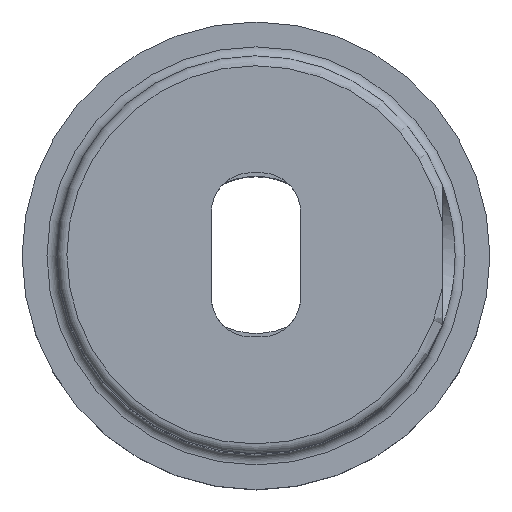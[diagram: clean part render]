
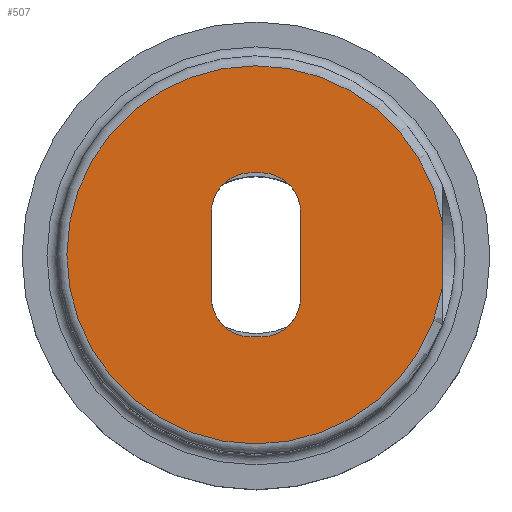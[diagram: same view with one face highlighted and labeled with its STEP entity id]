
A CAD part, top view. The second image highlights one B-rep face of the part: STEP entity #507.
In plain terms, the highlighted planar face has unit normal (0, 0, 1).
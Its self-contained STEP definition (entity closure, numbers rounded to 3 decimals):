
#17=FACE_BOUND('',#157,.T.);
#29=PLANE('',#591);
#41=LINE('',#878,#72);
#44=LINE('',#888,#75);
#49=LINE('',#908,#80);
#53=LINE('',#918,#84);
#60=LINE('',#938,#91);
#72=VECTOR('',#673,10.);
#75=VECTOR('',#684,10.);
#80=VECTOR('',#705,10.);
#84=VECTOR('',#717,10.);
#91=VECTOR('',#740,10.);
#126=FACE_OUTER_BOUND('',#156,.T.);
#156=EDGE_LOOP('',(#427,#428));
#157=EDGE_LOOP('',(#429,#430,#431,#432,#433,#434,#435,#436));
#164=CIRCLE('',#538,19.);
#180=CIRCLE('',#562,4.);
#183=CIRCLE('',#568,4.);
#187=CIRCLE('',#574,4.);
#190=CIRCLE('',#580,4.);
#203=VERTEX_POINT('',#763);
#206=VERTEX_POINT('',#781);
#226=VERTEX_POINT('',#865);
#227=VERTEX_POINT('',#867);
#230=VERTEX_POINT('',#877);
#231=VERTEX_POINT('',#881);
#233=VERTEX_POINT('',#887);
#237=VERTEX_POINT('',#897);
#240=VERTEX_POINT('',#907);
#241=VERTEX_POINT('',#911);
#252=EDGE_CURVE('',#206,#203,#164,.T.);
#277=EDGE_CURVE('',#226,#227,#180,.T.);
#282=EDGE_CURVE('',#230,#227,#41,.T.);
#284=EDGE_CURVE('',#230,#231,#183,.T.);
#287=EDGE_CURVE('',#233,#231,#44,.T.);
#292=EDGE_CURVE('',#233,#237,#187,.T.);
#297=EDGE_CURVE('',#240,#237,#49,.T.);
#299=EDGE_CURVE('',#240,#241,#190,.T.);
#303=EDGE_CURVE('',#226,#241,#53,.T.);
#314=EDGE_CURVE('',#206,#203,#60,.T.);
#427=ORIENTED_EDGE('',*,*,#252,.F.);
#428=ORIENTED_EDGE('',*,*,#314,.T.);
#429=ORIENTED_EDGE('',*,*,#297,.T.);
#430=ORIENTED_EDGE('',*,*,#292,.F.);
#431=ORIENTED_EDGE('',*,*,#287,.T.);
#432=ORIENTED_EDGE('',*,*,#284,.F.);
#433=ORIENTED_EDGE('',*,*,#282,.T.);
#434=ORIENTED_EDGE('',*,*,#277,.F.);
#435=ORIENTED_EDGE('',*,*,#303,.T.);
#436=ORIENTED_EDGE('',*,*,#299,.F.);
#507=ADVANCED_FACE('',(#126,#17),#29,.T.);
#538=AXIS2_PLACEMENT_3D('',#796,#606,#607);
#562=AXIS2_PLACEMENT_3D('',#868,#661,#662);
#568=AXIS2_PLACEMENT_3D('',#882,#677,#678);
#574=AXIS2_PLACEMENT_3D('',#898,#693,#694);
#580=AXIS2_PLACEMENT_3D('',#912,#709,#710);
#591=AXIS2_PLACEMENT_3D('',#939,#741,#742);
#606=DIRECTION('center_axis',(0.,0.,-1.));
#607=DIRECTION('ref_axis',(-1.,0.,0.));
#661=DIRECTION('center_axis',(0.,0.,1.));
#662=DIRECTION('ref_axis',(-0.707,-0.707,0.));
#673=DIRECTION('',(-1.,0.,0.));
#677=DIRECTION('center_axis',(0.,0.,1.));
#678=DIRECTION('ref_axis',(0.707,-0.707,0.));
#684=DIRECTION('',(0.,-1.,0.));
#693=DIRECTION('center_axis',(0.,0.,1.));
#694=DIRECTION('ref_axis',(0.707,0.707,0.));
#705=DIRECTION('',(1.,0.,0.));
#709=DIRECTION('center_axis',(0.,0.,1.));
#710=DIRECTION('ref_axis',(-0.707,0.707,0.));
#717=DIRECTION('',(0.,1.,0.));
#740=DIRECTION('',(0.,1.,0.));
#741=DIRECTION('center_axis',(0.,0.,1.));
#742=DIRECTION('ref_axis',(1.,0.,0.));
#763=CARTESIAN_POINT('',(18.7,3.363,77.5));
#781=CARTESIAN_POINT('',(18.7,-3.363,77.5));
#796=CARTESIAN_POINT('Origin',(0.,0.,77.5));
#865=CARTESIAN_POINT('',(-4.5,-4.25,77.5));
#867=CARTESIAN_POINT('',(-0.5,-8.25,77.5));
#868=CARTESIAN_POINT('Origin',(-0.5,-4.25,77.5));
#877=CARTESIAN_POINT('',(0.5,-8.25,77.5));
#878=CARTESIAN_POINT('',(12.25,-8.25,77.5));
#881=CARTESIAN_POINT('',(4.5,-4.25,77.5));
#882=CARTESIAN_POINT('Origin',(0.5,-4.25,77.5));
#887=CARTESIAN_POINT('',(4.5,4.25,77.5));
#888=CARTESIAN_POINT('',(4.5,4.125,77.5));
#897=CARTESIAN_POINT('',(0.5,8.25,77.5));
#898=CARTESIAN_POINT('Origin',(0.5,4.25,77.5));
#907=CARTESIAN_POINT('',(-0.5,8.25,77.5));
#908=CARTESIAN_POINT('',(7.75,8.25,77.5));
#911=CARTESIAN_POINT('',(-4.5,4.25,77.5));
#912=CARTESIAN_POINT('Origin',(-0.5,4.25,77.5));
#918=CARTESIAN_POINT('',(-4.5,-4.125,77.5));
#938=CARTESIAN_POINT('',(18.7,0.,77.5));
#939=CARTESIAN_POINT('Origin',(20.,0.,77.5));
